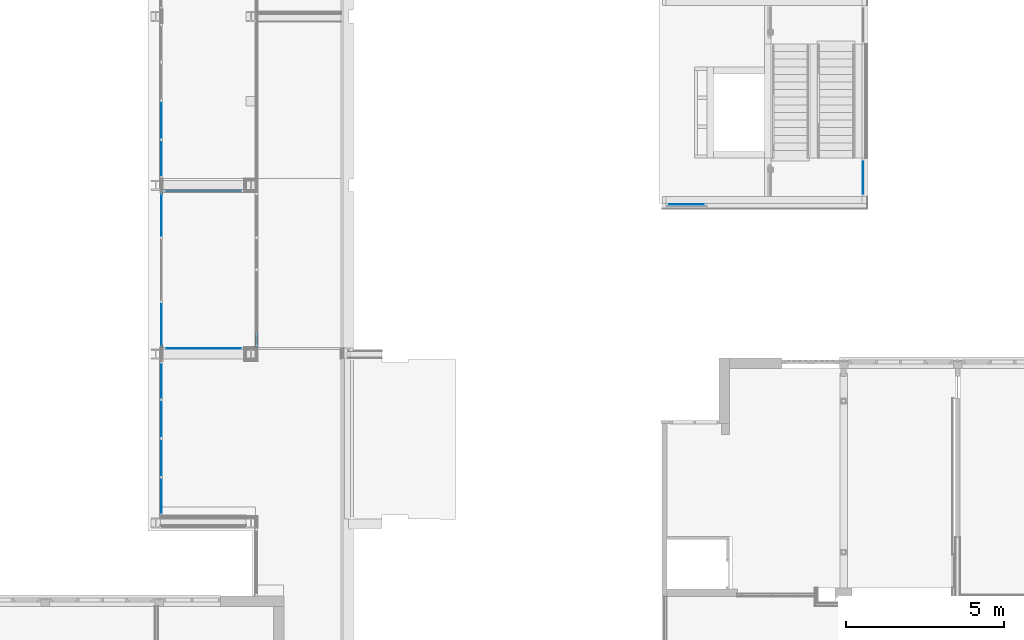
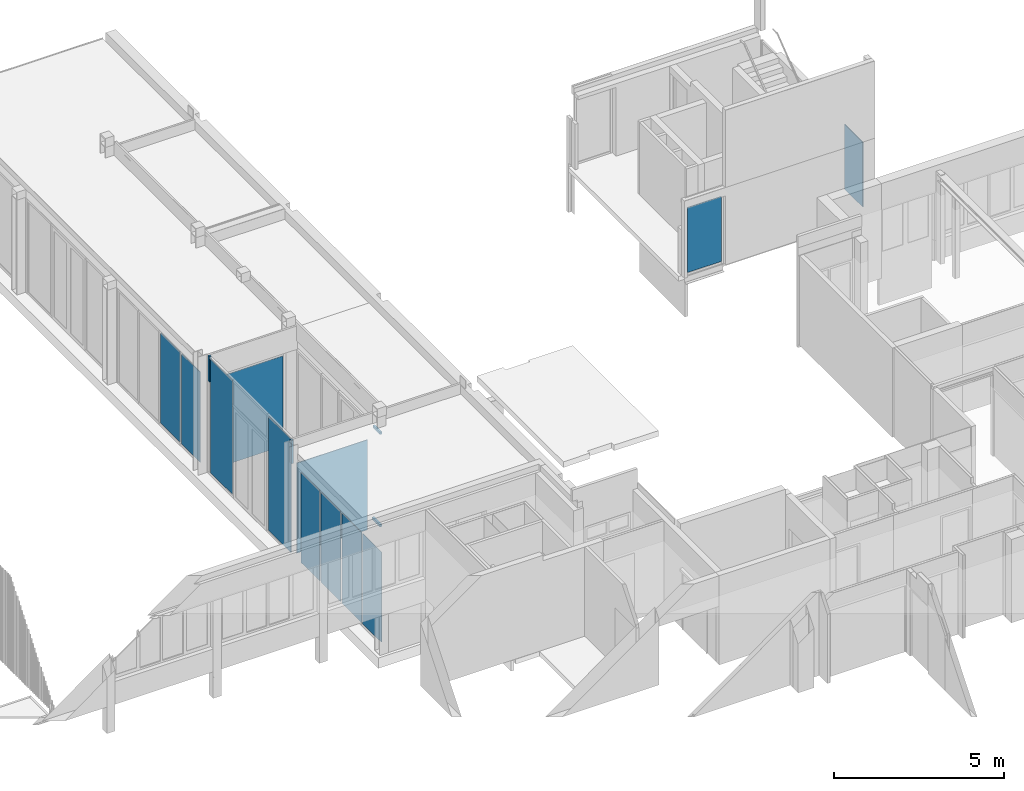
# One storey, part 7 of 99: 12 plates, 4 members, 8 elements without a shape of their own.
"""IFC2X3 building model written with IfcOpenShell, lengths in millimetres."""

import ifcopenshell
import ifcopenshell.guid

model = None  # the IFC model being written
_history = None  # IfcOwnerHistory: only IFC2X3 demands one
_inside = {}  # id of a spatial element -> (the spatial element, [elements in it])
_under = {}  # id of a project, library or spatial element -> (it, [spatial elements below it])
_declared = {}  # id of a project -> (the project, [libraries it declares])
_typed = {}  # id of a type object -> (the type object, [elements of that type])
_made_of = {}  # id of a material, layer set ... -> (it, [elements and type objects made of it])


def new_model(schema):
    """Start an empty IFC model of exactly this schema.

    Asked for "IFC4X3", IfcOpenShell would pick the latest addendum, in which some entities
    have other attributes; the version numbers below select the first issue.
    IFC2X3 requires an IfcOwnerHistory on every rooted entity: one is made here for all.
    """
    global model, _history
    if schema == "IFC4X3":
        model = ifcopenshell.file(schema_version=(4, 3, 0, 0))
    else:
        model = ifcopenshell.file(schema=schema)
    _inside.clear()
    _under.clear()
    _declared.clear()
    _typed.clear()
    _made_of.clear()
    _history = None
    if model.schema == "IFC2X3":
        org = make("IfcOrganization", Name="unknown")
        user = make(
            "IfcPersonAndOrganization",
            ThePerson=make("IfcPerson", FamilyName="unknown"),
            TheOrganization=org,
        )
        app = make(
            "IfcApplication",
            ApplicationDeveloper=org,
            Version="unknown",
            ApplicationFullName="unknown",
            ApplicationIdentifier="unknown",
        )
        _history = make(
            "IfcOwnerHistory",
            OwningUser=user,
            OwningApplication=app,
            ChangeAction="ADDED",
            CreationDate=0,
        )
    return model


def make(cls, **values):
    """One entity of the class cls with the attributes given. An attribute that is None is left unset."""
    return model.create_entity(
        cls, **{name: value for name, value in values.items() if value is not None}
    )


def entity(cls, *values):
    """Any entity or typed value of the class cls, its attributes in the order of the schema. None: left unset."""
    e = model.create_entity(cls)
    for i, value in enumerate(values):
        if value is not None:
            e[i] = value
    return e


def rooted(cls, **values):
    """An entity with a GlobalId (a new one), such as an element, a storey or a relation."""
    return make(cls, GlobalId=ifcopenshell.guid.new(), OwnerHistory=_history, **values)


def si_unit(unit_type, name, prefix=None):
    """IfcSIUnit, for example si_unit("LENGTHUNIT", "METRE", prefix="MILLI")."""
    return make("IfcSIUnit", UnitType=unit_type, Prefix=prefix, Name=name)


def converted_unit(unit_type, name, factor, base, dimensions=None, offset=None):
    """IfcConversionBasedUnit, such as the inch: factor (a typed value) times the base unit."""
    return make(
        "IfcConversionBasedUnit"
        if offset is None
        else "IfcConversionBasedUnitWithOffset",
        ConversionOffset=offset,
        Dimensions=None
        if dimensions is None
        else entity("IfcDimensionalExponents", *dimensions),
        UnitType=unit_type,
        Name=name,
        ConversionFactor=make(
            "IfcMeasureWithUnit", ValueComponent=factor, UnitComponent=base
        ),
    )


def derived_unit(unit_type, elements):
    """IfcDerivedUnit: a product of units, each with its exponent."""
    return make(
        "IfcDerivedUnit",
        Elements=[
            make("IfcDerivedUnitElement", Unit=unit, Exponent=power)
            for unit, power in elements
        ],
        UnitType=unit_type,
    )


def money_unit(currency):
    """IfcMonetaryUnit."""
    return make("IfcMonetaryUnit", Currency=currency)


def assignment(units):
    """IfcUnitAssignment: the units of a project."""
    return None if units is None else make("IfcUnitAssignment", Units=units)


def point(xyz):
    """IfcCartesianPoint."""
    return None if xyz is None else make("IfcCartesianPoint", Coordinates=xyz)


def direction(xyz):
    """IfcDirection."""
    return None if xyz is None else make("IfcDirection", DirectionRatios=xyz)


def frame(location, z_axis=None, x_axis=None):
    """IfcAxis2Placement3D, a coordinate frame: its origin and axes. An axis left out is left unset."""
    return make(
        "IfcAxis2Placement3D",
        Location=point(location),
        Axis=direction(z_axis),
        RefDirection=direction(x_axis),
    )


def origin_with_axes():
    """The frame at (0, 0, 0) with the z axis (0, 0, 1) and the x axis (1, 0, 0) written out."""
    return frame((0.0, 0.0, 0.0), z_axis=(0.0, 0.0, 1.0), x_axis=(1.0, 0.0, 0.0))


def place(relative_to, where):
    """IfcLocalPlacement: puts the frame where relative to a parent placement (None: the world)."""
    return make(
        "IfcLocalPlacement", PlacementRelTo=relative_to, RelativePlacement=where
    )


def context(
    kind, dimensions, precision=None, world=None, true_north=None, identifier=None
):
    """IfcGeometricRepresentationContext, for example the 3D "Model" context."""
    return make(
        "IfcGeometricRepresentationContext",
        ContextIdentifier=identifier,
        ContextType=kind,
        CoordinateSpaceDimension=dimensions,
        Precision=precision,
        WorldCoordinateSystem=world,
        TrueNorth=true_north,
    )


def subcontext(parent, identifier, kind, view, scale=None):
    """IfcGeometricRepresentationSubContext, for example "Body" below "Model"."""
    return make(
        "IfcGeometricRepresentationSubContext",
        ContextIdentifier=identifier,
        ContextType=kind,
        ParentContext=parent,
        TargetScale=scale,
        TargetView=view,
    )


def project(units=None, contexts=None):
    """IfcProject with its units and contexts."""
    return rooted(
        "IfcProject",
        Name="project",
        RepresentationContexts=contexts,
        UnitsInContext=assignment(units),
    )


def spatial(cls, under=None, at=None, **own):
    """A site, building, storey or space (cls), placed at a placement, below another one or the project."""
    s = rooted(cls, ObjectPlacement=at, **own)
    if under is not None:
        _under.setdefault(under.id(), (under, []))[1].append(s)
    return s


def faces_of(points, faces, orient=None, outer=None):
    """IfcFace entities. A face is a list of loops; a loop is a list of indices into points, from 0.

    orient and outer hold one flag for each loop. By default every Orientation is true, the
    first loop of a face is its IfcFaceOuterBound and the others are IfcFaceBound.
    """
    made = []
    for i, loops in enumerate(faces):
        bounds = []
        for j, loop in enumerate(loops):
            is_outer = j == 0 if outer is None else outer[i][j]
            bounds.append(
                make(
                    "IfcFaceOuterBound" if is_outer else "IfcFaceBound",
                    Bound=make("IfcPolyLoop", Polygon=[points[k] for k in loop]),
                    Orientation=True if orient is None else orient[i][j],
                )
            )
        made.append(make("IfcFace", Bounds=bounds))
    return made


def faceted_brep(points, faces, orient=None, outer=None, voids=None):
    """IfcFacetedBrep: a solid bounded by flat faces; with voids (closed shells), ...WithVoids."""
    shared = [point(p) for p in points]
    hull = make("IfcClosedShell", CfsFaces=faces_of(shared, faces, orient, outer))
    if voids is None:
        return make("IfcFacetedBrep", Outer=hull)
    return make(
        "IfcFacetedBrepWithVoids",
        Outer=hull,
        Voids=[
            make(cls, CfsFaces=faces_of(shared, fs, o, b)) for cls, fs, o, b in voids
        ],
    )


def shape(context_of_items, identifier, shape_type, items):
    """IfcShapeRepresentation: the items that make up one representation, for example the "Body"."""
    return make(
        "IfcShapeRepresentation",
        ContextOfItems=context_of_items,
        RepresentationIdentifier=identifier,
        RepresentationType=shape_type,
        Items=items,
    )


def source(mapping_origin, context_of_items, identifier, shape_type, items):
    """IfcRepresentationMap: a shape defined once, which mapped items show again and again."""
    return make(
        "IfcRepresentationMap",
        MappingOrigin=mapping_origin,
        MappedRepresentation=shape(context_of_items, identifier, shape_type, items),
    )


def transform(
    local_origin,
    x_axis=None,
    y_axis=None,
    z_axis=None,
    scale=None,
    scale2=None,
    scale3=None,
    uniform=True,
):
    """IfcCartesianTransformationOperator3D, or its non-uniform kind. x_axis, y_axis, z_axis: its Axis1, 2, 3."""
    if uniform:
        return make(
            "IfcCartesianTransformationOperator3D",
            Axis1=direction(x_axis),
            Axis2=direction(y_axis),
            LocalOrigin=point(local_origin),
            Scale=scale,
            Axis3=direction(z_axis),
        )
    return make(
        "IfcCartesianTransformationOperator3DnonUniform",
        Axis1=direction(x_axis),
        Axis2=direction(y_axis),
        LocalOrigin=point(local_origin),
        Scale=scale,
        Axis3=direction(z_axis),
        Scale2=scale2,
        Scale3=scale3,
    )


def mapped(mapping_source, mapping_target):
    """IfcMappedItem: shows the shape of a source again, moved by a transform."""
    return make(
        "IfcMappedItem", MappingSource=mapping_source, MappingTarget=mapping_target
    )


def material(Name=None, Category=None):
    """IfcMaterial."""
    return make("IfcMaterial", Name=Name, Category=Category)


def made_of(thing, what):
    """Note that an element or type object is made of a material, layer set ...; save() writes the relation."""
    if what is not None:
        _made_of.setdefault(what.id(), (what, []))[1].append(thing)
    return thing


def type_object(cls, material=None, **own):
    """A type object (cls), such as IfcWallType, which elements share."""
    return made_of(rooted(cls, **own), material)


def type_shapes(of_type, sources):
    """Give a type object the sources (RepresentationMaps) that its elements show as mapped items."""
    of_type.RepresentationMaps = sources


def element(
    cls,
    number,
    at=None,
    inside=None,
    cuts=None,
    type_object=None,
    material=None,
    context=None,
    identifier="Body",
    shape_type=None,
    held_by="IfcProductDefinitionShape",
    body=None,
    shapes=None,
    **own,
):
    """One element of the class cls, such as IfcWall. Its Tag is "e" and its number.

    at: its placement. inside: the storey or other place that contains it. cuts: it is an
    opening in that element (IfcRelVoidsElement). A single representation is given by context,
    identifier, shape_type and body (its items); several are given by shapes. held_by: the class
    of the entity that holds the representations. save() writes the other relations.
    """
    e = rooted(cls, Tag="e%d" % number, ObjectPlacement=at, **own)
    if body is not None:
        shapes = [shape(context, identifier, shape_type, body)]
    if shapes is not None:
        e.Representation = make(held_by, Representations=shapes)
    if inside is not None:
        _inside.setdefault(inside.id(), (inside, []))[1].append(e)
    if cuts is not None:
        rooted(
            "IfcRelVoidsElement", RelatingBuildingElement=cuts, RelatedOpeningElement=e
        )
    if type_object is not None:
        _typed.setdefault(type_object.id(), (type_object, []))[1].append(e)
    return made_of(e, material)


def aggregate(whole, parts):
    """IfcRelAggregates: a whole, such as a stair, and the parts it consists of."""
    return rooted("IfcRelAggregates", RelatingObject=whole, RelatedObjects=parts)


def save(model, path):
    """Write the relations noted so far, then the file.

    IfcRelAggregates (storeys below a building ...), IfcRelContainedInSpatialStructure (elements
    in a storey), IfcRelDefinesByType, IfcRelAssociatesMaterial and IfcRelDeclares: one each for
    every whole, place, type object, material and project.
    """
    for whole, parts in _under.values():
        aggregate(whole, parts)
    for where, things in _inside.values():
        rooted(
            "IfcRelContainedInSpatialStructure",
            RelatedElements=things,
            RelatingStructure=where,
        )
    for kind, things in _typed.values():
        rooted("IfcRelDefinesByType", RelatedObjects=things, RelatingType=kind)
    for what, things in _made_of.values():
        rooted("IfcRelAssociatesMaterial", RelatedObjects=things, RelatingMaterial=what)
    for by, libraries in _declared.values():
        rooted("IfcRelDeclares", RelatingContext=by, RelatedDefinitions=libraries)
    model.write(path)


model = new_model("IFC2X3")

# Units and contexts
model_context = context("Model", 3, precision=0.01, world=origin_with_axes(), true_north=direction((0.0, 1.0)))
body_context = subcontext(model_context, "Body", "Model", "MODEL_VIEW")
ifc_project = project(units=[si_unit("LENGTHUNIT", "METRE", prefix="MILLI"), si_unit("AREAUNIT", "SQUARE_METRE"), si_unit("VOLUMEUNIT", "CUBIC_METRE"), converted_unit("PLANEANGLEUNIT", "DEGREE", entity("IfcPlaneAngleMeasure", 0.0174532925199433), si_unit("PLANEANGLEUNIT", "RADIAN"), dimensions=[0, 0, 0, 0, 0, 0, 0]), money_unit("EUR"), converted_unit("TIMEUNIT", "Year", entity("IfcTimeMeasure", 31557600.0), si_unit("TIMEUNIT", "SECOND"), dimensions=[0, 0, 1, 0, 0, 0, 0]), si_unit("MASSUNIT", "GRAM", prefix="KILO"), si_unit("THERMODYNAMICTEMPERATUREUNIT", "DEGREE_CELSIUS"), si_unit("LUMINOUSINTENSITYUNIT", "LUMEN"), si_unit("ENERGYUNIT", "JOULE", prefix="MEGA"), derived_unit("THERMALCONDUCTANCEUNIT", [(si_unit("POWERUNIT", "WATT"), 1), (si_unit("LENGTHUNIT", "METRE"), -1), (si_unit("THERMODYNAMICTEMPERATUREUNIT", "KELVIN"), -1)]), derived_unit("SPECIFICHEATCAPACITYUNIT", [(si_unit("ENERGYUNIT", "JOULE"), 1), (si_unit("MASSUNIT", "GRAM", prefix="KILO"), -1), (si_unit("THERMODYNAMICTEMPERATUREUNIT", "KELVIN"), -1)]), derived_unit("MASSDENSITYUNIT", [(si_unit("MASSUNIT", "GRAM", prefix="KILO"), 1), (si_unit("VOLUMEUNIT", "CUBIC_METRE"), -1)])], contexts=[model_context])

# Site, building, storey
site_placement = place(None, origin_with_axes())
site = spatial("IfcSite", under=ifc_project, at=site_placement, Name="Site", CompositionType="ELEMENT")
building_placement = place(site_placement, origin_with_axes())
building = spatial("IfcBuilding", under=site, at=building_placement, Name="Naam gebouw", CompositionType="ELEMENT")
storey_placement = place(building_placement, frame((0.0, 0.0, 7650.0), z_axis=(0.0, 0.0, 1.0), x_axis=(1.0, 0.0, 0.0)))
storey = spatial("IfcBuildingStorey", under=building, at=storey_placement, Name="2e verdieping N", CompositionType="ELEMENT", Elevation=7650.0)

# Curtain wall, members
curtain_wall_type_1 = type_object("IfcCurtainWallType", Name="Curtain Wall:21_CW_alu kozijn 084x065", PredefinedType="NOTDEFINED")
curtain_wall_1_placement = place(storey_placement, frame((0.0, 0.0, -7650.0), z_axis=(0.0, 0.0, 1.0), x_axis=(1.0, 0.0, 0.0)))
curtain_wall_1 = element("IfcCurtainWall", 1, at=curtain_wall_1_placement, inside=storey, type_object=curtain_wall_type_1, Name="Curtain Wall:21_CW_alu kozijn 084x065", ObjectType="Curtain Wall:21_CW_alu kozijn 084x065")
ifc_material_1 = material(Name="RAL 7024 - Grafietgrijs")
member_type_1 = type_object("IfcMemberType", Name="Rectangular Mullion:31_alu_084x065 RAL 7024", PredefinedType="MULLION")
member_1_placement = place(curtain_wall_1_placement, frame((14474.50000003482, 28170.91242625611, 8306.000000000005), z_axis=(0.0, 0.0, 1.0), x_axis=(0.0, -1.0, 0.0)))
member_1 = element("IfcMember", 2, at=member_1_placement, type_object=member_type_1, material=ifc_material_1, Name="Rectangular Mullion:31_alu_084x065 RAL 7024", ObjectType="MULLION", context=body_context, shape_type="Brep", body=[
    faceted_brep([(0.0, 32.5, -836.0), (-83.99999999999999, 32.50000000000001, -836.0), (-83.99999999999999, 32.50000000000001, 0.0), (0.0, 32.5, 0.0), (0.0, -32.50000000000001, -836.0), (-84.00000000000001, -32.5, -836.0), (-84.00000000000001, -32.5, 0.0), (0.0, -32.50000000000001, 0.0)], [[[0, 1, 2, 3]], [[0, 4, 5, 1]], [[1, 5, 6, 2]], [[3, 2, 6, 7]], [[4, 0, 3, 7]], [[5, 4, 7, 6]]]),
])
member_type_2 = type_object("IfcMemberType", Name="Rectangular Mullion:31_alu_084x065 RAL 7024", PredefinedType="MULLION")
member_2_placement = place(curtain_wall_1_placement, frame((14474.50000003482, 33070.9124263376, 7469.999999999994), z_axis=(0.0, 0.0, 1.0), x_axis=(0.0, 1.0, 0.0)))
member_2 = element("IfcMember", 3, at=member_2_placement, type_object=member_type_2, material=ifc_material_1, Name="Rectangular Mullion:31_alu_084x065 RAL 7024", ObjectType="MULLION", context=body_context, shape_type="Brep", body=[
    faceted_brep([(0.0, -32.5, 920.0), (-83.99999999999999, -32.50000000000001, 920.0), (-83.99999999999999, -32.50000000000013, 0.0), (0.0, -32.50000000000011, 0.0), (0.0, 32.50000000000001, 920.0), (-84.00000000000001, 32.5, 920.0), (-84.00000000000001, 32.49999999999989, 0.0), (0.0, 32.4999999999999, 0.0)], [[[0, 1, 2, 3]], [[0, 4, 5, 1]], [[1, 5, 6, 2]], [[3, 2, 6, 7]], [[4, 0, 3, 7]], [[5, 4, 7, 6]]]),
])

curtain_wall_2_placement = place(storey_placement, frame((0.0, 0.0, -7650.0), z_axis=(0.0, 0.0, 1.0), x_axis=(1.0, 0.0, 0.0)))
curtain_wall_2 = element("IfcCurtainWall", 4, at=curtain_wall_2_placement, inside=storey, type_object=curtain_wall_type_1, Name="Curtain Wall:21_CW_alu kozijn 084x065", ObjectType="Curtain Wall:21_CW_alu kozijn 084x065")
member_type_3 = type_object("IfcMemberType", Name="Rectangular Mullion:31_alu_084x065 RAL 7024", PredefinedType="MULLION")
member_3_placement = place(curtain_wall_2_placement, frame((17473.50000004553, 28170.91242631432, 4150.0), z_axis=(0.0, 0.0, 1.0), x_axis=(1.0, 0.0, 0.0)))
member_3 = element("IfcMember", 5, at=member_3_placement, type_object=member_type_3, material=ifc_material_1, Name="Rectangular Mullion:31_alu_084x065 RAL 7024", ObjectType="MULLION", context=body_context, shape_type="Brep", body=[
    faceted_brep([(32.49999999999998, 462.0, 0.0), (32.49999999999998, 462.0, 84.0), (32.50000000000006, 0.0, 84.0), (32.50000000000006, 0.0, 0.0), (-32.50000000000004, 462.0, 0.0), (-32.50000000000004, 462.0, 84.0), (-32.49999999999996, 0.0, 84.0), (-32.49999999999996, 0.0, 0.0)], [[[0, 1, 2, 3]], [[0, 4, 5, 1]], [[1, 5, 6, 2]], [[3, 2, 6, 7]], [[4, 0, 3, 7]], [[5, 4, 7, 6]]]),
])
member_type_4 = type_object("IfcMemberType", Name="Rectangular Mullion:31_alu_084x065 RAL 7024", PredefinedType="MULLION")
member_4_placement = place(curtain_wall_2_placement, frame((17473.49999998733, 28590.91242635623, 7550.000000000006), z_axis=(0.0, 0.0, 1.0), x_axis=(1.0, 0.0, 0.0)))
member_4 = element("IfcMember", 6, at=member_4_placement, type_object=member_type_4, material=ifc_material_1, Name="Rectangular Mullion:31_alu_084x065 RAL 7024", ObjectType="MULLION", context=body_context, shape_type="Brep", body=[
    faceted_brep([(32.50000000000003, -420.0, 0.0), (32.50000000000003, -420.0, -84.0), (32.49999999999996, 0.0, -84.0), (32.49999999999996, 0.0, 0.0), (-32.49999999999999, -420.0, 0.0), (-32.49999999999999, -420.0, -84.0), (-32.50000000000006, 0.0, -84.0), (-32.50000000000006, 0.0, 0.0)], [[[0, 1, 2, 3]], [[0, 4, 5, 1]], [[1, 5, 6, 2]], [[3, 2, 6, 7]], [[4, 0, 3, 7]], [[5, 4, 7, 6]]]),
])
aggregate(curtain_wall_2, [member_3, member_4])

# Curtain wall, plate
curtain_wall_type_2 = type_object("IfcCurtainWallType", Name="Curtain Wall:21_CW_alu kozijn 070x065", PredefinedType="NOTDEFINED")
curtain_wall_3_placement = place(storey_placement, frame((0.0, 0.0, -7650.0), z_axis=(0.0, 0.0, 1.0), x_axis=(1.0, 0.0, 0.0)))
curtain_wall_3 = element("IfcCurtainWall", 7, at=curtain_wall_3_placement, inside=storey, type_object=curtain_wall_type_2, Name="Curtain Wall:21_CW_alu kozijn 070x065", ObjectType="Curtain Wall:21_CW_alu kozijn 070x065")
ifc_material_2 = material(Name="Glass")
plate_type_1 = type_object("IfcPlateType", Name="System Panel:31_CWP_alu glas_2", PredefinedType="CURTAIN_PANEL")
shared_shape_1 = source(origin_with_axes(), body_context, "Body", "Brep", [
    faceted_brep([(540.0000000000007, -12.00000000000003, 0.0), (540.0000000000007, 11.99999999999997, 0.0), (540.0000000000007, 11.99999999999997, 2330.000000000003), (540.0000000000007, -12.00000000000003, 2330.000000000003), (-540.0000000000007, -11.99999999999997, 0.0), (-540.0000000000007, 12.00000000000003, 0.0), (-540.0000000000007, 12.00000000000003, 2330.000000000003), (-540.0000000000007, -11.99999999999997, 2330.000000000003)], [[[0, 1, 2, 3]], [[0, 4, 5, 1]], [[1, 5, 6, 2]], [[3, 2, 6, 7]], [[4, 0, 3, 7]], [[5, 4, 7, 6]]]),
])
type_shapes(plate_type_1, [shared_shape_1])
plate_1_placement = place(curtain_wall_3_placement, frame((36613.5000000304, 33535.9124262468, 5990.000000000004), z_axis=(0.0, 0.0, 1.0), x_axis=(0.0, -1.0, 0.0)))
plate_1 = element("IfcPlate", 8, at=plate_1_placement, type_object=plate_type_1, material=ifc_material_2, Name="System Panel:31_CWP_alu glas_2", ObjectType="CURTAIN_PANEL", context=body_context, shape_type="MappedRepresentation", body=[
    mapped(shared_shape_1, transform((0.0, 0.0, 0.0))),
])
aggregate(curtain_wall_3, [plate_1])

curtain_wall_4_placement = place(storey_placement, frame((0.0, 0.0, -7650.0), z_axis=(0.0, 0.0, 1.0), x_axis=(1.0, 0.0, 0.0)))
curtain_wall_4 = element("IfcCurtainWall", 9, at=curtain_wall_4_placement, inside=storey, type_object=curtain_wall_type_2, Name="Curtain Wall:21_CW_alu kozijn 070x065", ObjectType="Curtain Wall:21_CW_alu kozijn 070x065")
plate_type_2 = type_object("IfcPlateType", Name="System Panel:31_CWP_alu glas_2", PredefinedType="CURTAIN_PANEL")
shared_shape_2 = source(origin_with_axes(), body_context, "Body", "Brep", [
    faceted_brep([(577.0051413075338, -12.00000000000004, 0.0), (577.0051413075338, 11.99999999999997, 0.0), (577.0051413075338, 11.99999999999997, 2330.000000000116), (577.0051413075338, -12.00000000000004, 2330.000000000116), (-577.0051413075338, -11.99999999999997, 0.0), (-577.0051413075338, 12.00000000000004, 0.0), (-577.0051413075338, 12.00000000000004, 2330.000000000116), (-577.0051413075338, -11.99999999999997, 2330.000000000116)], [[[0, 1, 2, 3]], [[0, 4, 5, 1]], [[1, 5, 6, 2]], [[3, 2, 6, 7]], [[4, 0, 3, 7]], [[5, 4, 7, 6]]]),
])
type_shapes(plate_type_2, [shared_shape_2])
plate_2_placement = place(curtain_wall_4_placement, frame((31038.00514136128, 32679.41242631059, 5990.000000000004), z_axis=(0.0, 0.0, 1.0), x_axis=(-1.0, 0.0, 0.0)))
plate_2 = element("IfcPlate", 10, at=plate_2_placement, type_object=plate_type_2, material=ifc_material_2, Name="System Panel:31_CWP_alu glas_2", ObjectType="CURTAIN_PANEL", context=body_context, shape_type="MappedRepresentation", body=[
    mapped(shared_shape_2, transform((0.0, 0.0, 0.0))),
])
aggregate(curtain_wall_4, [plate_2])

# Curtain wall, plates
curtain_wall_5_placement = place(storey_placement, frame((0.0, 0.0, -7650.0), z_axis=(0.0, 0.0, 1.0), x_axis=(1.0, 0.0, 0.0)))
curtain_wall_5 = element("IfcCurtainWall", 11, at=curtain_wall_5_placement, inside=storey, type_object=curtain_wall_type_1, Name="Curtain Wall:21_CW_alu kozijn 084x065", ObjectType="Curtain Wall:21_CW_alu kozijn 084x065")
ifc_material_3 = material(Name="glas (1)")
plate_type_3 = type_object("IfcPlateType", Name="30_3B_vliesgevel - vastglas:vast glas_bi vast", PredefinedType="CURTAIN_PANEL")
shared_shape_3 = source(origin_with_axes(), body_context, "Body", "Brep", [
    faceted_brep([(548.2499999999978, -10.50000000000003, 0.0), (548.2499999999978, 10.49999999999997, 0.0), (548.2499999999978, 10.49999999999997, 3232.0), (548.2499999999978, -10.50000000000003, 3232.0), (-548.2499999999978, -10.49999999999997, 0.0), (-548.2499999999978, 10.50000000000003, 0.0), (-548.2499999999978, 10.50000000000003, 3232.0), (-548.2499999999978, -10.49999999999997, 3232.0)], [[[0, 1, 2, 3]], [[0, 4, 5, 1]], [[1, 5, 6, 2]], [[3, 2, 6, 7]], [[4, 0, 3, 7]], [[5, 4, 7, 6]]]),
])
type_shapes(plate_type_3, [shared_shape_3])
plate_3_placement = place(curtain_wall_5_placement, frame((14474.50000003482, 27108.66242629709, 4234.000000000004), z_axis=(0.0, 0.0, 1.0), x_axis=(0.0, 1.0, 0.0)))
plate_3 = element("IfcPlate", 12, at=plate_3_placement, type_object=plate_type_3, material=ifc_material_3, Name="30_3B_vliesgevel - vastglas:vast glas_bi vast", ObjectType="CURTAIN_PANEL", context=body_context, shape_type="MappedRepresentation", body=[
    mapped(shared_shape_3, transform((0.0, 0.0, 0.0))),
])
plate_4_placement = place(curtain_wall_5_placement, frame((14474.50000003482, 23483.16242633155, 4234.000000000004), z_axis=(0.0, 0.0, 1.0), x_axis=(0.0, 1.0, 0.0)))
plate_4 = element("IfcPlate", 13, at=plate_4_placement, type_object=plate_type_3, material=ifc_material_3, Name="30_3B_vliesgevel - vastglas:vast glas_bi vast", ObjectType="CURTAIN_PANEL", context=body_context, shape_type="MappedRepresentation", body=[
    mapped(shared_shape_3, transform((0.0, 0.0, 0.0))),
])
plate_type_4 = type_object("IfcPlateType", Name="30_3B_vliesgevel - vastglas:vast glas_bi vast", PredefinedType="CURTAIN_PANEL")
shared_shape_4 = source(origin_with_axes(), body_context, "Body", "Brep", [
    faceted_brep([(569.2499999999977, -10.50000000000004, 0.0), (569.2499999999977, 10.49999999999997, 0.0), (569.2499999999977, 10.49999999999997, 3232.0), (569.2499999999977, -10.50000000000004, 3232.0), (-569.2499999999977, -10.49999999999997, 0.0), (-569.2499999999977, 10.50000000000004, 0.0), (-569.2499999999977, 10.50000000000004, 3232.0), (-569.2499999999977, -10.49999999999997, 3232.0)], [[[0, 1, 2, 3]], [[0, 4, 5, 1]], [[1, 5, 6, 2]], [[3, 2, 6, 7]], [[4, 0, 3, 7]], [[5, 4, 7, 6]]]),
])
type_shapes(plate_type_4, [shared_shape_4])
plate_5_placement = place(curtain_wall_5_placement, frame((14474.50000006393, 25907.16242633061, 4234.000000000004), z_axis=(0.0, 0.0, 1.0), x_axis=(0.0, 1.0, 0.0)))
plate_5 = element("IfcPlate", 14, at=plate_5_placement, type_object=plate_type_4, material=ifc_material_3, Name="30_3B_vliesgevel - vastglas:vast glas_bi vast", ObjectType="CURTAIN_PANEL", context=body_context, shape_type="MappedRepresentation", body=[
    mapped(shared_shape_4, transform((0.0, 0.0, 0.0))),
])
plate_6_placement = place(curtain_wall_5_placement, frame((14474.50000003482, 24684.66242623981, 4234.000000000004), z_axis=(0.0, 0.0, 1.0), x_axis=(0.0, 1.0, 0.0)))
plate_6 = element("IfcPlate", 15, at=plate_6_placement, type_object=plate_type_4, material=ifc_material_3, Name="30_3B_vliesgevel - vastglas:vast glas_bi vast", ObjectType="CURTAIN_PANEL", context=body_context, shape_type="MappedRepresentation", body=[
    mapped(shared_shape_4, transform((0.0, 0.0, 0.0))),
])
aggregate(curtain_wall_5, [plate_3, plate_5, plate_4, plate_6])

# Plate
plate_type_5 = type_object("IfcPlateType", Name="30_3B_vliesgevel - vastglas:vast glas_bi vast", PredefinedType="CURTAIN_PANEL")
shared_shape_5 = source(origin_with_axes(), body_context, "Body", "Brep", [
    faceted_brep([(654.500000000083, -10.50000000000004, 0.0), (654.500000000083, 10.49999999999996, 0.0), (654.500000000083, 10.49999999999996, 4071.999999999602), (654.500000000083, -10.50000000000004, 4071.999999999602), (-654.500000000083, -10.49999999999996, 0.0), (-654.500000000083, 10.50000000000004, 0.0), (-654.500000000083, 10.50000000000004, 4071.999999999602), (-654.500000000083, -10.49999999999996, 4071.999999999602)], [[[0, 1, 2, 3]], [[0, 4, 5, 1]], [[1, 5, 6, 2]], [[3, 2, 6, 7]], [[4, 0, 3, 7]], [[5, 4, 7, 6]]]),
])
type_shapes(plate_type_5, [shared_shape_5])
plate_7_placement = place(curtain_wall_1_placement, frame((14474.50000003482, 28909.41242629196, 4234.000000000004), z_axis=(0.0, 0.0, 1.0), x_axis=(0.0, 1.0, 0.0)))
plate_7 = element("IfcPlate", 16, at=plate_7_placement, type_object=plate_type_5, material=ifc_material_3, Name="30_3B_vliesgevel - vastglas:vast glas_bi vast", ObjectType="CURTAIN_PANEL", context=body_context, shape_type="MappedRepresentation", body=[
    mapped(shared_shape_5, transform((0.0, 0.0, 0.0))),
])

plate_8_placement = place(curtain_wall_1_placement, frame((14474.50000003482, 32332.41242630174, 4234.000000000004), z_axis=(0.0, 0.0, 1.0), x_axis=(0.0, 1.0, 0.0)))
plate_8 = element("IfcPlate", 17, at=plate_8_placement, type_object=plate_type_5, material=ifc_material_3, Name="30_3B_vliesgevel - vastglas:vast glas_bi vast", ObjectType="CURTAIN_PANEL", context=body_context, shape_type="MappedRepresentation", body=[
    mapped(shared_shape_5, transform((0.0, 0.0, 0.0))),
])

aggregate(curtain_wall_1, [plate_7, member_1, plate_8, member_2])

# Curtain wall, plates
curtain_wall_6_placement = place(storey_placement, frame((0.0, 0.0, -7650.0), z_axis=(0.0, 0.0, 1.0), x_axis=(1.0, 0.0, 0.0)))
curtain_wall_6 = element("IfcCurtainWall", 18, at=curtain_wall_6_placement, inside=storey, type_object=curtain_wall_type_1, Name="Curtain Wall:21_CW_alu kozijn 084x065", ObjectType="Curtain Wall:21_CW_alu kozijn 084x065")
plate_type_6 = type_object("IfcPlateType", Name="30_3B_vliesgevel - vastglas:vast glas_bi vast", PredefinedType="CURTAIN_PANEL")
shared_shape_6 = source(origin_with_axes(), body_context, "Body", "Brep", [
    faceted_brep([(570.4999999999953, -10.50000000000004, 0.0), (570.4999999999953, 10.49999999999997, 0.0), (570.4999999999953, 10.49999999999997, 3232.0), (570.4999999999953, -10.50000000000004, 3232.0), (-570.4999999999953, -10.49999999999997, 0.0), (-570.4999999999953, 10.50000000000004, 0.0), (-570.4999999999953, 10.50000000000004, 3232.0), (-570.4999999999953, -10.49999999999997, 3232.0)], [[[0, 1, 2, 3]], [[0, 4, 5, 1]], [[1, 5, 6, 2]], [[3, 2, 6, 7]], [[4, 0, 3, 7]], [[5, 4, 7, 6]]]),
])
type_shapes(plate_type_6, [shared_shape_6])
plate_9_placement = place(curtain_wall_6_placement, frame((14474.50000003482, 35338.4124263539, 4234.000000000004), z_axis=(0.0, 0.0, 1.0), x_axis=(0.0, 1.0, 0.0)))
plate_9 = element("IfcPlate", 19, at=plate_9_placement, type_object=plate_type_6, material=ifc_material_3, Name="30_3B_vliesgevel - vastglas:vast glas_bi vast", ObjectType="CURTAIN_PANEL", context=body_context, shape_type="MappedRepresentation", body=[
    mapped(shared_shape_6, transform((0.0, 0.0, 0.0))),
])
plate_type_7 = type_object("IfcPlateType", Name="30_3B_vliesgevel - vastglas:vast glas_bi vast", PredefinedType="CURTAIN_PANEL")
shared_shape_7 = source(origin_with_axes(), body_context, "Body", "Brep", [
    faceted_brep([(549.4999999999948, -10.50000000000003, 0.0), (549.4999999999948, 10.49999999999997, 0.0), (549.4999999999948, 10.49999999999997, 3232.0), (549.4999999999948, -10.50000000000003, 3232.0), (-549.4999999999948, -10.49999999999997, 0.0), (-549.4999999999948, 10.50000000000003, 0.0), (-549.4999999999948, 10.50000000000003, 3232.0), (-549.4999999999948, -10.49999999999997, 3232.0)], [[[0, 1, 2, 3]], [[0, 4, 5, 1]], [[1, 5, 6, 2]], [[3, 2, 6, 7]], [[4, 0, 3, 7]], [[5, 4, 7, 6]]]),
])
type_shapes(plate_type_7, [shared_shape_7])
plate_10_placement = place(curtain_wall_6_placement, frame((14474.50000000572, 34134.4124263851, 4234.000000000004), z_axis=(0.0, 0.0, 1.0), x_axis=(0.0, 1.0, 0.0)))
plate_10 = element("IfcPlate", 20, at=plate_10_placement, type_object=plate_type_7, material=ifc_material_3, Name="30_3B_vliesgevel - vastglas:vast glas_bi vast", ObjectType="CURTAIN_PANEL", context=body_context, shape_type="MappedRepresentation", body=[
    mapped(shared_shape_7, transform((0.0, 0.0, 0.0))),
])
aggregate(curtain_wall_6, [plate_10, plate_9])

# Curtain wall, plate
curtain_wall_7_placement = place(storey_placement, frame((0.0, 0.0, -7650.0), z_axis=(0.0, 0.0, 1.0), x_axis=(1.0, 0.0, 0.0)))
curtain_wall_7 = element("IfcCurtainWall", 21, at=curtain_wall_7_placement, inside=storey, type_object=curtain_wall_type_1, Name="Curtain Wall:21_CW_alu kozijn 084x065", ObjectType="Curtain Wall:21_CW_alu kozijn 084x065")
plate_type_8 = type_object("IfcPlateType", Name="System Panel:31_CWP_alu glas_2", PredefinedType="CURTAIN_PANEL")
shared_shape_8 = source(origin_with_axes(), body_context, "Body", "Brep", [
    faceted_brep([(1200.500000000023, -12.00000000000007, 0.0), (1200.500000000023, 11.99999999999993, 0.0), (1200.500000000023, 11.99999999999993, 3232.0), (1200.500000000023, -12.00000000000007, 3232.0), (-1200.500000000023, -11.99999999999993, 0.0), (-1200.500000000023, 12.00000000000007, 0.0), (-1200.500000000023, 12.00000000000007, 3232.0), (-1200.500000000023, -11.99999999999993, 3232.0)], [[[0, 1, 2, 3]], [[0, 4, 5, 1]], [[1, 5, 6, 2]], [[3, 2, 6, 7]], [[4, 0, 3, 7]], [[5, 4, 7, 6]]]),
])
type_shapes(plate_type_8, [shared_shape_8])
plate_11_placement = place(curtain_wall_7_placement, frame((15791.50000001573, 28138.41242634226, 4234.000000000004), z_axis=(0.0, 0.0, 1.0), x_axis=(-1.0, 0.0, 0.0)))
plate_11 = element("IfcPlate", 22, at=plate_11_placement, type_object=plate_type_8, material=ifc_material_2, Name="System Panel:31_CWP_alu glas_2", ObjectType="CURTAIN_PANEL", context=body_context, shape_type="MappedRepresentation", body=[
    mapped(shared_shape_8, transform((0.0, 0.0, 0.0))),
])
aggregate(curtain_wall_7, [plate_11])

curtain_wall_8_placement = place(storey_placement, frame((0.0, 0.0, -7650.0), z_axis=(0.0, 0.0, 1.0), x_axis=(1.0, 0.0, 0.0)))
curtain_wall_8 = element("IfcCurtainWall", 23, at=curtain_wall_8_placement, inside=storey, type_object=curtain_wall_type_1, Name="Curtain Wall:21_CW_alu kozijn 084x065", ObjectType="Curtain Wall:21_CW_alu kozijn 084x065")
plate_type_9 = type_object("IfcPlateType", Name="System Panel:31_CWP_alu glas_2", PredefinedType="CURTAIN_PANEL")
type_shapes(plate_type_9, [shared_shape_8])
plate_12_placement = place(curtain_wall_8_placement, frame((15791.50000007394, 33103.41242630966, 4234.000000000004), z_axis=(0.0, 0.0, 1.0), x_axis=(-1.0, 0.0, 0.0)))
plate_12 = element("IfcPlate", 24, at=plate_12_placement, type_object=plate_type_9, material=ifc_material_2, Name="System Panel:31_CWP_alu glas_2", ObjectType="CURTAIN_PANEL", context=body_context, shape_type="MappedRepresentation", body=[
    mapped(shared_shape_8, transform((0.0, 0.0, 0.0))),
])
aggregate(curtain_wall_8, [plate_12])

save(model, "model.ifc")
